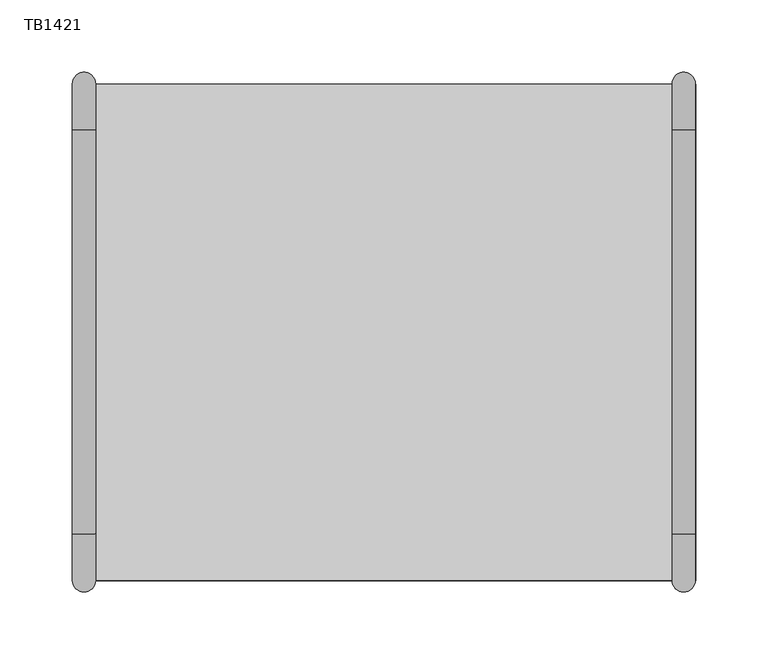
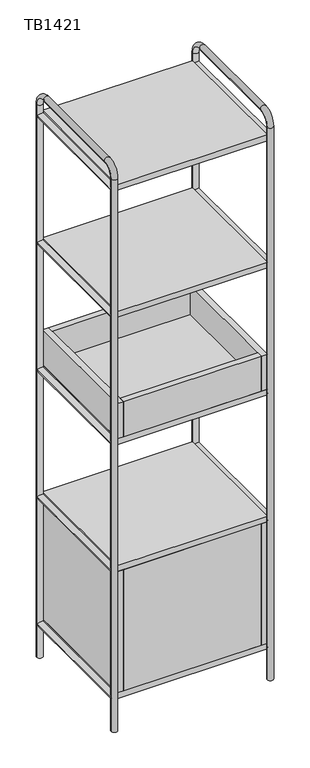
"""IFC4 building model written with IfcOpenShell, lengths in millimetres: furniture geometry, Tubbe Bookcase_4x1 : TB1421."""

from ifc_helpers import new_model, si_unit, point, frame, frame_2d, origin, place, context, project, spatial, polyline, circle_curve, ellipse_curve, trimmed, segment, composite_curve, outline, extrude, source, transform, mapped, element, save
from ifc_brep_helpers import plane_surface, cylinder_surface, revolved_surface, advanced_brep


def tb1421_a1fe68c5(model_context):
    return source(origin(), model_context, "Body", "SolidModel", [
        advanced_brep(
        [(-215.2205547, 171.5, 0.0), (-199.2205547, 171.5, 0.0), (-215.2205547, 171.5, 1548.0), (-199.2205547, 171.5, 1548.0), (-199.2205547, 139.5, 1580.0), (-215.2205547, 139.5, 1580.0), (-215.2205547, -139.5, 1580.0), (-199.2205547, -139.5, 1580.0), (-199.2205547, -171.5, 1548.0), (-215.2205547, -171.5, 1548.0), (-215.2205547, -171.5, 0.0), (-199.2205547, -171.5, 0.0)],
        [
            (0, 1, circle_curve(frame((-207.2205547, 171.5, 0.0), z_axis=(0.0, 0.0, -1.0), x_axis=(1.0, 0.0, 0.0)), 8.0)),
            (1, 0, circle_curve(frame((-207.2205547, 171.5, 0.0), z_axis=(0.0, 0.0, -1.0), x_axis=(1.0, 0.0, 0.0)), 8.0)),
            (0, 2),
            (2, 3, circle_curve(frame((-207.2205547, 171.5, 1548.0), z_axis=(0.0, 0.0, -1.0), x_axis=(1.0, 0.0, 0.0)), 8.0)),
            (3, 1),
            (3, 2, circle_curve(frame((-207.2205547, 171.5, 1548.0), z_axis=(0.0, 0.0, -1.0), x_axis=(1.0, 0.0, 0.0)), 8.0)),
            (4, 5, circle_curve(frame((-207.2205547, 139.5, 1580.0), z_axis=(0.0, -1.0, 0.0), x_axis=(1.0, 0.0, 0.0)), 8.0)),
            (5, 6),
            (6, 7, circle_curve(frame((-207.2205547, -139.5, 1580.0), z_axis=(0.0, 1.0, 0.0), x_axis=(1.0, 0.0, 0.0)), 8.0)),
            (7, 4),
            (5, 4, circle_curve(frame((-207.2205547, 139.5, 1580.0), z_axis=(0.0, -1.0, 0.0), x_axis=(1.0, 0.0, 0.0)), 8.0)),
            (7, 6, circle_curve(frame((-207.2205547, -139.5, 1580.0), z_axis=(0.0, 1.0, 0.0), x_axis=(1.0, 0.0, 0.0)), 8.0)),
            (8, 7, circle_curve(frame((-199.2205547, -139.5, 1548.0), z_axis=(-1.0, 0.0, 0.0), x_axis=(0.0, 0.0, 1.0)), 32.0)),
            (6, 9, circle_curve(frame((-215.2205547, -139.5, 1548.0), z_axis=(1.0, 0.0, 0.0), x_axis=(0.0, 0.0, 1.0)), 32.0)),
            (9, 8, circle_curve(frame((-207.2205547, -171.5, 1548.0), z_axis=(0.0, 0.0, 1.0), x_axis=(1.0, 0.0, 0.0)), 8.0)),
            (8, 9, circle_curve(frame((-207.2205547, -171.5, 1548.0), z_axis=(0.0, 0.0, 1.0), x_axis=(1.0, 0.0, 0.0)), 8.0)),
            (10, 11, circle_curve(frame((-207.2205547, -171.5, 0.0), z_axis=(0.0, 0.0, -1.0), x_axis=(1.0, 0.0, 0.0)), 8.0)),
            (11, 10, circle_curve(frame((-207.2205547, -171.5, 0.0), z_axis=(0.0, 0.0, -1.0), x_axis=(1.0, 0.0, 0.0)), 8.0)),
            (9, 10),
            (11, 8),
            (4, 3, circle_curve(frame((-199.2205547, 139.5, 1548.0), z_axis=(-1.0, 0.0, 0.0), x_axis=(0.0, 1.0, 0.0)), 32.0)),
            (2, 5, circle_curve(frame((-215.2205547, 139.5, 1548.0), z_axis=(1.0, 0.0, 0.0), x_axis=(0.0, 1.0, 0.0)), 32.0)),
        ],
        [
            plane_surface(frame((-207.0, 171.5, 0.0), z_axis=(0.0, 0.0, -1.0), x_axis=(1.0, 0.0, 0.0))),
            cylinder_surface(frame((-207.2205547, 171.5, 0.0), z_axis=(0.0, 0.0, -1.0), x_axis=(1.0, 0.0, 0.0)), 8.0),
            cylinder_surface(frame((-207.2205547, 139.5, 1580.0), z_axis=(0.0, 1.0, 0.0), x_axis=(1.0, 0.0, 0.0)), 8.0),
            revolved_surface(trimmed(ellipse_curve(frame((-207.2205547, -139.5, 1580.0), z_axis=(0.0, 1.0, 0.0), x_axis=(1.0, 0.0, 0.0)), 8.0, 8.0), [point((-215.2205547, -139.5, 1580.0))], [point((-199.2205547, -139.5, 1580.0))], True, "CARTESIAN"), (-207.0, -139.5, 1548.0), (1.0, 0.0, 0.0)),
            revolved_surface(trimmed(ellipse_curve(frame((-207.2205547, -139.5, 1580.0), z_axis=(0.0, 1.0, 0.0), x_axis=(1.0, 0.0, 0.0)), 8.0, 8.0), [point((-199.2205547, -139.5, 1580.0))], [point((-215.2205547, -139.5, 1580.0))], True, "CARTESIAN"), (-207.0, -139.5, 1548.0), (1.0, 0.0, 0.0)),
            plane_surface(frame((-207.0, -171.5, 0.0), z_axis=(0.0, 0.0, -1.0), x_axis=(1.0, 0.0, 0.0))),
            cylinder_surface(frame((-207.2205547, -171.5, 1548.0), z_axis=(0.0, 0.0, 1.0), x_axis=(1.0, 0.0, 0.0)), 8.0),
            revolved_surface(trimmed(ellipse_curve(frame((-207.2205547, 171.5, 1548.0), z_axis=(0.0, 0.0, -1.0), x_axis=(1.0, 0.0, 0.0)), 8.0, 8.0), [point((-215.2205547, 171.5, 1548.0))], [point((-199.2205547, 171.5, 1548.0))], True, "CARTESIAN"), (-207.0, 139.5, 1548.0), (1.0, 0.0, 0.0)),
            revolved_surface(trimmed(ellipse_curve(frame((-207.2205547, 171.5, 1548.0), z_axis=(0.0, 0.0, -1.0), x_axis=(1.0, 0.0, 0.0)), 8.0, 8.0), [point((-199.2205547, 171.5, 1548.0))], [point((-215.2205547, 171.5, 1548.0))], True, "CARTESIAN"), (-207.0, 139.5, 1548.0), (1.0, 0.0, 0.0)),
        ],
        [
            (0, [[1, 2]]),
            (1, [[-1, 3, 4, 5]]),
            (1, [[-2, -5, 6, -3]]),
            (2, [[7, 8, 9, 10]]),
            (2, [[11, -10, 12, -8]]),
            (3, [[13, -9, 14, 15]]),
            (4, [[-14, -12, -13, 16]]),
            (5, [[17, 18]]),
            (6, [[-15, 19, -18, 20]]),
            (6, [[-16, -20, -17, -19]]),
            (7, [[21, -4, 22, -7]]),
            (8, [[-22, -6, -21, -11]]),
        ],
    ),
        extrude(outline(composite_curve([segment(trimmed(circle_curve(frame_2d((806.0, -207.0)), 8.0), [point((806.0, -215.0))], [point((806.0, -199.0))], False, "CARTESIAN"), True, "CONTINUOUS"), segment(trimmed(circle_curve(frame_2d((806.0, -207.0)), 8.0), [point((806.0, -199.0))], [point((806.0, -215.0))], False, "CARTESIAN"), True, "CONTINUOUS")], self_intersect=False)), frame((0.0, -171.5, 0.0), z_axis=(0.0, 1.0, 0.0), x_axis=(0.0, 0.0, 1.0)), (0.0, 0.0, 1.0), 343.0),
        extrude(outline(composite_curve([segment(trimmed(circle_curve(frame_2d((450.0, -207.0)), 8.0), [point((450.0, -215.0))], [point((450.0, -199.0))], False, "CARTESIAN"), True, "CONTINUOUS"), segment(trimmed(circle_curve(frame_2d((450.0, -207.0)), 8.0), [point((450.0, -199.0))], [point((450.0, -215.0))], False, "CARTESIAN"), True, "CONTINUOUS")], self_intersect=False)), frame((0.0, -171.5, 0.0), z_axis=(0.0, 1.0, 0.0), x_axis=(0.0, 0.0, 1.0)), (0.0, 0.0, 1.0), 343.0),
        extrude(outline(composite_curve([segment(trimmed(circle_curve(frame_2d((94.0, -207.0)), 8.0), [point((94.0, -215.0))], [point((94.0, -199.0))], False, "CARTESIAN"), True, "CONTINUOUS"), segment(trimmed(circle_curve(frame_2d((94.0, -207.0)), 8.0), [point((94.0, -199.0))], [point((94.0, -215.0))], False, "CARTESIAN"), True, "CONTINUOUS")], self_intersect=False)), frame((0.0, -171.5, 0.0), z_axis=(0.0, 1.0, 0.0), x_axis=(0.0, 0.0, 1.0)), (0.0, 0.0, 1.0), 343.0),
        extrude(outline(composite_curve([segment(trimmed(circle_curve(frame_2d((1518.0, -207.0)), 8.0), [point((1518.0, -215.0))], [point((1518.0, -199.0))], False, "CARTESIAN"), True, "CONTINUOUS"), segment(trimmed(circle_curve(frame_2d((1518.0, -207.0)), 8.0), [point((1518.0, -199.0))], [point((1518.0, -215.0))], False, "CARTESIAN"), True, "CONTINUOUS")], self_intersect=False)), frame((0.0, -171.5, 0.0), z_axis=(0.0, 1.0, 0.0), x_axis=(0.0, 0.0, 1.0)), (0.0, 0.0, 1.0), 343.0),
        extrude(outline(composite_curve([segment(trimmed(circle_curve(frame_2d((1162.0, -207.0)), 8.0), [point((1162.0, -215.0))], [point((1162.0, -199.0))], False, "CARTESIAN"), True, "CONTINUOUS"), segment(trimmed(circle_curve(frame_2d((1162.0, -207.0)), 8.0), [point((1162.0, -199.0))], [point((1162.0, -215.0))], False, "CARTESIAN"), True, "CONTINUOUS")], self_intersect=False)), frame((0.0, -171.5, 0.0), z_axis=(0.0, 1.0, 0.0), x_axis=(0.0, 0.0, 1.0)), (0.0, 0.0, 1.0), 343.0),
        extrude(outline(polyline([(183.0, 155.5), (183.0, -155.5), (-183.0, -155.5), (-183.0, 155.5), (183.0, 155.5)])), frame((0.0, 0.0, 814.0), z_axis=(0.0, 0.0, 1.0), x_axis=(1.0, 0.0, 0.0)), (0.0, 0.0, 1.0), 16.0),
        extrude(outline(polyline([(183.0, -171.5), (-183.0, -171.5), (-183.0, -155.5), (183.0, -155.5), (183.0, -171.5)])), frame((0.0, 0.0, 814.0), z_axis=(0.0, 0.0, 1.0), x_axis=(1.0, 0.0, 0.0)), (0.0, 0.0, 1.0), 98.0),
        extrude(outline(polyline([(183.0, 155.5), (-183.0, 155.5), (-183.0, 171.5), (183.0, 171.5), (183.0, 155.5)])), frame((0.0, 0.0, 814.0), z_axis=(0.0, 0.0, 1.0), x_axis=(1.0, 0.0, 0.0)), (0.0, 0.0, 1.0), 98.0),
        extrude(outline(polyline([(199.0, 171.5), (199.0, -171.5), (183.0, -171.5), (183.0, 171.5), (199.0, 171.5)])), frame((0.0, 0.0, 814.0), z_axis=(0.0, 0.0, 1.0), x_axis=(1.0, 0.0, 0.0)), (0.0, 0.0, 1.0), 98.0),
        extrude(outline(polyline([(-183.0, 171.5), (-183.0, -171.5), (-199.0, -171.5), (-199.0, 171.5), (-183.0, 171.5)])), frame((0.0, 0.0, 814.0), z_axis=(0.0, 0.0, 1.0), x_axis=(1.0, 0.0, 0.0)), (0.0, 0.0, 1.0), 98.0),
        extrude(outline(polyline([(183.0, -171.5), (-183.0, -171.5), (-183.0, -155.5), (183.0, -155.5), (183.0, -171.5)])), frame((0.0, 0.0, 102.0), z_axis=(0.0, 0.0, 1.0), x_axis=(1.0, 0.0, 0.0)), (0.0, 0.0, 1.0), 340.0),
        extrude(outline(polyline([(183.0, 155.5), (-183.0, 155.5), (-183.0, 171.5), (183.0, 171.5), (183.0, 155.5)])), frame((0.0, 0.0, 102.0), z_axis=(0.0, 0.0, 1.0), x_axis=(1.0, 0.0, 0.0)), (0.0, 0.0, 1.0), 340.0),
        extrude(outline(polyline([(199.0, 171.5), (199.0, -171.5), (183.0, -171.5), (183.0, 171.5), (199.0, 171.5)])), frame((0.0, 0.0, 102.0), z_axis=(0.0, 0.0, 1.0), x_axis=(1.0, 0.0, 0.0)), (0.0, 0.0, 1.0), 340.0),
        extrude(outline(polyline([(-183.0, 171.5), (-183.0, -171.5), (-199.0, -171.5), (-199.0, 171.5), (-183.0, 171.5)])), frame((0.0, 0.0, 102.0), z_axis=(0.0, 0.0, 1.0), x_axis=(1.0, 0.0, 0.0)), (0.0, 0.0, 1.0), 340.0),
        extrude(outline(polyline([(199.0, 171.5), (199.0, -171.5), (-199.0, -171.5), (-199.0, 171.5), (199.0, 171.5)])), frame((0.0, 0.0, 1510.0), z_axis=(0.0, 0.0, 1.0), x_axis=(1.0, 0.0, 0.0)), (0.0, 0.0, 1.0), 16.0),
        extrude(outline(polyline([(199.0, 171.5), (199.0, -171.5), (-199.0, -171.5), (-199.0, 171.5), (199.0, 171.5)])), frame((0.0, 0.0, 1154.0), z_axis=(0.0, 0.0, 1.0), x_axis=(1.0, 0.0, 0.0)), (0.0, 0.0, 1.0), 16.0),
        extrude(outline(polyline([(199.0, 171.5), (199.0, -171.5), (-199.0, -171.5), (-199.0, 171.5), (199.0, 171.5)])), frame((0.0, 0.0, 798.0), z_axis=(0.0, 0.0, 1.0), x_axis=(1.0, 0.0, 0.0)), (0.0, 0.0, 1.0), 16.0),
        extrude(outline(polyline([(199.0, 171.5), (199.0, -171.5), (-199.0, -171.5), (-199.0, 171.5), (199.0, 171.5)])), frame((0.0, 0.0, 442.0), z_axis=(0.0, 0.0, 1.0), x_axis=(1.0, 0.0, 0.0)), (0.0, 0.0, 1.0), 16.0),
        extrude(outline(polyline([(199.0, 171.5), (199.0, -171.5), (-199.0, -171.5), (-199.0, 171.5), (199.0, 171.5)])), frame((0.0, 0.0, 86.0), z_axis=(0.0, 0.0, 1.0), x_axis=(1.0, 0.0, 0.0)), (0.0, 0.0, 1.0), 16.0),
        advanced_brep(
        [(198.7794453, 171.5, 0.0), (214.7794453, 171.5, 0.0), (198.7794453, 171.5, 1548.0), (214.7794453, 171.5, 1548.0), (214.7794453, 139.5, 1580.0), (198.7794453, 139.5, 1580.0), (198.7794453, -139.5, 1580.0), (214.7794453, -139.5, 1580.0), (214.7794453, -171.5, 1548.0), (198.7794453, -171.5, 1548.0), (198.7794453, -171.5, 0.0), (214.7794453, -171.5, 0.0)],
        [
            (0, 1, circle_curve(frame((206.7794453, 171.5, 0.0), z_axis=(0.0, 0.0, -1.0), x_axis=(1.0, 0.0, 0.0)), 8.0)),
            (1, 0, circle_curve(frame((206.7794453, 171.5, 0.0), z_axis=(0.0, 0.0, -1.0), x_axis=(1.0, 0.0, 0.0)), 8.0)),
            (0, 2),
            (2, 3, circle_curve(frame((206.7794453, 171.5, 1548.0), z_axis=(0.0, 0.0, -1.0), x_axis=(1.0, 0.0, 0.0)), 8.0)),
            (3, 1),
            (3, 2, circle_curve(frame((206.7794453, 171.5, 1548.0), z_axis=(0.0, 0.0, -1.0), x_axis=(1.0, 0.0, 0.0)), 8.0)),
            (4, 5, circle_curve(frame((206.7794453, 139.5, 1580.0), z_axis=(0.0, -1.0, 0.0), x_axis=(1.0, 0.0, 0.0)), 8.0)),
            (5, 6),
            (6, 7, circle_curve(frame((206.7794453, -139.5, 1580.0), z_axis=(0.0, 1.0, 0.0), x_axis=(1.0, 0.0, 0.0)), 8.0)),
            (7, 4),
            (5, 4, circle_curve(frame((206.7794453, 139.5, 1580.0), z_axis=(0.0, -1.0, 0.0), x_axis=(1.0, 0.0, 0.0)), 8.0)),
            (7, 6, circle_curve(frame((206.7794453, -139.5, 1580.0), z_axis=(0.0, 1.0, 0.0), x_axis=(1.0, 0.0, 0.0)), 8.0)),
            (8, 7, circle_curve(frame((214.7794453, -139.5, 1548.0), z_axis=(-1.0, 0.0, 0.0), x_axis=(0.0, 0.0, 1.0)), 32.0)),
            (6, 9, circle_curve(frame((198.7794453, -139.5, 1548.0), z_axis=(1.0, 0.0, 0.0), x_axis=(0.0, 0.0, 1.0)), 32.0)),
            (9, 8, circle_curve(frame((206.7794453, -171.5, 1548.0), z_axis=(0.0, 0.0, 1.0), x_axis=(1.0, 0.0, 0.0)), 8.0)),
            (8, 9, circle_curve(frame((206.7794453, -171.5, 1548.0), z_axis=(0.0, 0.0, 1.0), x_axis=(1.0, 0.0, 0.0)), 8.0)),
            (10, 11, circle_curve(frame((206.7794453, -171.5, 0.0), z_axis=(0.0, 0.0, -1.0), x_axis=(1.0, 0.0, 0.0)), 8.0)),
            (11, 10, circle_curve(frame((206.7794453, -171.5, 0.0), z_axis=(0.0, 0.0, -1.0), x_axis=(1.0, 0.0, 0.0)), 8.0)),
            (9, 10),
            (11, 8),
            (4, 3, circle_curve(frame((214.7794453, 139.5, 1548.0), z_axis=(-1.0, 0.0, 0.0), x_axis=(0.0, 1.0, 0.0)), 32.0)),
            (2, 5, circle_curve(frame((198.7794453, 139.5, 1548.0), z_axis=(1.0, 0.0, 0.0), x_axis=(0.0, 1.0, 0.0)), 32.0)),
        ],
        [
            plane_surface(frame((207.0, 171.5, 0.0), z_axis=(0.0, 0.0, -1.0), x_axis=(1.0, 0.0, 0.0))),
            cylinder_surface(frame((206.7794453, 171.5, 0.0), z_axis=(0.0, 0.0, -1.0), x_axis=(1.0, 0.0, 0.0)), 8.0),
            cylinder_surface(frame((206.7794453, 139.5, 1580.0), z_axis=(0.0, 1.0, 0.0), x_axis=(1.0, 0.0, 0.0)), 8.0),
            revolved_surface(trimmed(ellipse_curve(frame((206.7794453, -139.5, 1580.0), z_axis=(0.0, 1.0, 0.0), x_axis=(1.0, 0.0, 0.0)), 8.0, 8.0), [point((198.7794453, -139.5, 1580.0))], [point((214.7794453, -139.5, 1580.0))], True, "CARTESIAN"), (207.0, -139.5, 1548.0), (1.0, 0.0, 0.0)),
            revolved_surface(trimmed(ellipse_curve(frame((206.7794453, -139.5, 1580.0), z_axis=(0.0, 1.0, 0.0), x_axis=(1.0, 0.0, 0.0)), 8.0, 8.0), [point((214.7794453, -139.5, 1580.0))], [point((198.7794453, -139.5, 1580.0))], True, "CARTESIAN"), (207.0, -139.5, 1548.0), (1.0, 0.0, 0.0)),
            plane_surface(frame((207.0, -171.5, 0.0), z_axis=(0.0, 0.0, -1.0), x_axis=(1.0, 0.0, 0.0))),
            cylinder_surface(frame((206.7794453, -171.5, 1548.0), z_axis=(0.0, 0.0, 1.0), x_axis=(1.0, 0.0, 0.0)), 8.0),
            revolved_surface(trimmed(ellipse_curve(frame((206.7794453, 171.5, 1548.0), z_axis=(0.0, 0.0, -1.0), x_axis=(1.0, 0.0, 0.0)), 8.0, 8.0), [point((198.7794453, 171.5, 1548.0))], [point((214.7794453, 171.5, 1548.0))], True, "CARTESIAN"), (207.0, 139.5, 1548.0), (1.0, 0.0, 0.0)),
            revolved_surface(trimmed(ellipse_curve(frame((206.7794453, 171.5, 1548.0), z_axis=(0.0, 0.0, -1.0), x_axis=(1.0, 0.0, 0.0)), 8.0, 8.0), [point((214.7794453, 171.5, 1548.0))], [point((198.7794453, 171.5, 1548.0))], True, "CARTESIAN"), (207.0, 139.5, 1548.0), (1.0, 0.0, 0.0)),
        ],
        [
            (0, [[1, 2]]),
            (1, [[-1, 3, 4, 5]]),
            (1, [[-2, -5, 6, -3]]),
            (2, [[7, 8, 9, 10]]),
            (2, [[11, -10, 12, -8]]),
            (3, [[13, -9, 14, 15]]),
            (4, [[-14, -12, -13, 16]]),
            (5, [[17, 18]]),
            (6, [[-15, 19, -18, 20]]),
            (6, [[-16, -20, -17, -19]]),
            (7, [[21, -4, 22, -7]]),
            (8, [[-22, -6, -21, -11]]),
        ],
    ),
        extrude(outline(composite_curve([segment(trimmed(circle_curve(frame_2d((806.0, 207.0)), 8.0), [point((806.0, 199.0))], [point((806.0, 215.0))], False, "CARTESIAN"), True, "CONTINUOUS"), segment(trimmed(circle_curve(frame_2d((806.0, 207.0)), 8.0), [point((806.0, 215.0))], [point((806.0, 199.0))], False, "CARTESIAN"), True, "CONTINUOUS")], self_intersect=False)), frame((0.0, -171.5, 0.0), z_axis=(0.0, 1.0, 0.0), x_axis=(0.0, 0.0, 1.0)), (0.0, 0.0, 1.0), 343.0),
        extrude(outline(composite_curve([segment(trimmed(circle_curve(frame_2d((450.0, 207.0)), 8.0), [point((450.0, 199.0))], [point((450.0, 215.0))], False, "CARTESIAN"), True, "CONTINUOUS"), segment(trimmed(circle_curve(frame_2d((450.0, 207.0)), 8.0), [point((450.0, 215.0))], [point((450.0, 199.0))], False, "CARTESIAN"), True, "CONTINUOUS")], self_intersect=False)), frame((0.0, -171.5, 0.0), z_axis=(0.0, 1.0, 0.0), x_axis=(0.0, 0.0, 1.0)), (0.0, 0.0, 1.0), 343.0),
        extrude(outline(composite_curve([segment(trimmed(circle_curve(frame_2d((94.0, 207.0)), 8.0), [point((94.0, 199.0))], [point((94.0, 215.0))], False, "CARTESIAN"), True, "CONTINUOUS"), segment(trimmed(circle_curve(frame_2d((94.0, 207.0)), 8.0), [point((94.0, 215.0))], [point((94.0, 199.0))], False, "CARTESIAN"), True, "CONTINUOUS")], self_intersect=False)), frame((0.0, -171.5, 0.0), z_axis=(0.0, 1.0, 0.0), x_axis=(0.0, 0.0, 1.0)), (0.0, 0.0, 1.0), 343.0),
        extrude(outline(composite_curve([segment(trimmed(circle_curve(frame_2d((1518.0, 207.0)), 8.0), [point((1518.0, 199.0))], [point((1518.0, 215.0))], False, "CARTESIAN"), True, "CONTINUOUS"), segment(trimmed(circle_curve(frame_2d((1518.0, 207.0)), 8.0), [point((1518.0, 215.0))], [point((1518.0, 199.0))], False, "CARTESIAN"), True, "CONTINUOUS")], self_intersect=False)), frame((0.0, -171.5, 0.0), z_axis=(0.0, 1.0, 0.0), x_axis=(0.0, 0.0, 1.0)), (0.0, 0.0, 1.0), 343.0),
        extrude(outline(composite_curve([segment(trimmed(circle_curve(frame_2d((1162.0, 207.0)), 8.0), [point((1162.0, 199.0))], [point((1162.0, 215.0))], False, "CARTESIAN"), True, "CONTINUOUS"), segment(trimmed(circle_curve(frame_2d((1162.0, 207.0)), 8.0), [point((1162.0, 215.0))], [point((1162.0, 199.0))], False, "CARTESIAN"), True, "CONTINUOUS")], self_intersect=False)), frame((0.0, -171.5, 0.0), z_axis=(0.0, 1.0, 0.0), x_axis=(0.0, 0.0, 1.0)), (0.0, 0.0, 1.0), 343.0),
    ])


if __name__ == "__main__":
    model = new_model("IFC4")
    model_context = context("Model", 3, world=origin())
    ifc_project = project(units=[si_unit("LENGTHUNIT", "METRE", prefix="MILLI")], contexts=[model_context])
    site = spatial("IfcSite", under=ifc_project)
    building = spatial("IfcBuilding", under=site)
    placement = place(None, origin())
    tb1421_shape = tb1421_a1fe68c5(model_context)
    element("IfcFurniture", 1, ObjectType="Tubbe Bookcase_4x1 : TB1421", at=placement, inside=building, context=model_context, shape_type="MappedRepresentation", body=[
        mapped(tb1421_shape, transform((0.0, 0.0, 0.0), x_axis=(1.0, 0.0, 0.0), y_axis=(0.0, 1.0, 0.0), z_axis=(0.0, 0.0, 1.0))),
    ])
    save(model, "model.ifc")
